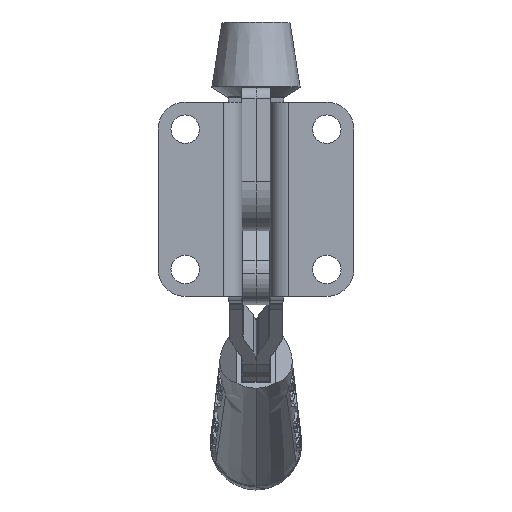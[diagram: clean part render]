
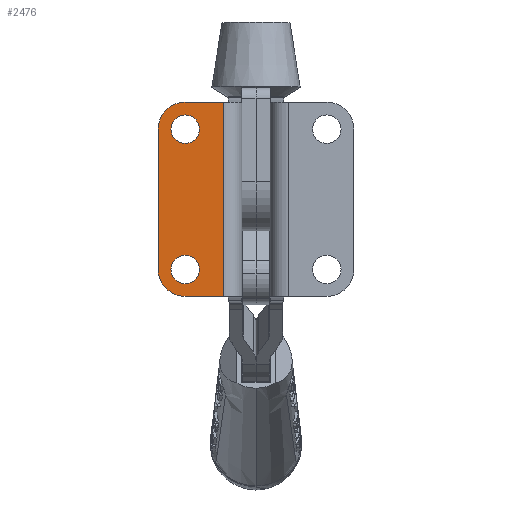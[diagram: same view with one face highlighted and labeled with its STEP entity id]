
A CAD part, front view. The second image highlights one B-rep face of the part: STEP entity #2476.
In plain terms, the highlighted planar face has unit normal (0, -1, 0).
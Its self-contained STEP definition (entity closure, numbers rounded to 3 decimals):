
#1627=CARTESIAN_POINT('',(-20.828,-33.274,20.638));
#1628=DIRECTION('',(0.,1.,0.));
#1629=DIRECTION('',(-1.,0.,0.));
#1630=AXIS2_PLACEMENT_3D('',#1627,#1628,#1629);
#1635=CARTESIAN_POINT('',(-20.828,-33.274,20.638));
#1636=DIRECTION('',(0.,1.,0.));
#1637=DIRECTION('',(1.,0.,0.));
#1638=AXIS2_PLACEMENT_3D('',#1635,#1636,#1637);
#1643=CARTESIAN_POINT('',(-20.828,-33.274,-20.638));
#1644=DIRECTION('',(0.,1.,0.));
#1645=DIRECTION('',(-1.,0.,0.));
#1646=AXIS2_PLACEMENT_3D('',#1643,#1644,#1645);
#1651=CARTESIAN_POINT('',(-20.828,-33.274,-20.638));
#1652=DIRECTION('',(0.,1.,0.));
#1653=DIRECTION('',(1.,0.,0.));
#1654=AXIS2_PLACEMENT_3D('',#1651,#1652,#1653);
#1659=DIRECTION('',(1.,0.,0.));
#1660=VECTOR('',#1659,11.214);
#1661=CARTESIAN_POINT('',(-20.866,-33.274,-28.575));
#1662=LINE('',#1661,#1660);
#1666=CARTESIAN_POINT('',(-20.866,-33.274,-20.638));
#1667=DIRECTION('',(0.,-1.,0.));
#1668=DIRECTION('',(-1.,0.,0.));
#1669=AXIS2_PLACEMENT_3D('',#1666,#1667,#1668);
#1674=DIRECTION('',(0.,0.,-1.));
#1675=VECTOR('',#1674,41.275);
#1676=CARTESIAN_POINT('',(-28.804,-33.274,20.638));
#1677=LINE('',#1676,#1675);
#1681=CARTESIAN_POINT('',(-20.866,-33.274,20.638));
#1682=DIRECTION('',(0.,-1.,0.));
#1683=DIRECTION('',(0.,0.,1.));
#1684=AXIS2_PLACEMENT_3D('',#1681,#1682,#1683);
#1689=DIRECTION('',(-1.,0.,0.));
#1690=VECTOR('',#1689,11.214);
#1691=CARTESIAN_POINT('',(-9.652,-33.274,28.575));
#1692=LINE('',#1691,#1690);
#2175=DIRECTION('',(0.,0.,-1.));
#2176=VECTOR('',#2175,57.15);
#2177=CARTESIAN_POINT('',(-9.652,-33.274,28.575));
#2178=LINE('',#2177,#2176);
#2310=CARTESIAN_POINT('',(-25.019,-33.274,20.638));
#2311=CARTESIAN_POINT('',(-16.637,-33.274,20.638));
#2312=VERTEX_POINT('',#2310);
#2313=VERTEX_POINT('',#2311);
#2314=CARTESIAN_POINT('',(-25.019,-33.274,-20.638));
#2315=CARTESIAN_POINT('',(-16.637,-33.274,-20.638));
#2316=VERTEX_POINT('',#2314);
#2317=VERTEX_POINT('',#2315);
#2354=CARTESIAN_POINT('',(-9.652,-33.274,28.575));
#2355=CARTESIAN_POINT('',(-9.652,-33.274,-28.575));
#2356=VERTEX_POINT('',#2354);
#2357=VERTEX_POINT('',#2355);
#2366=CARTESIAN_POINT('',(-20.866,-33.274,28.575));
#2367=VERTEX_POINT('',#2366);
#2368=CARTESIAN_POINT('',(-20.866,-33.274,-28.575));
#2369=VERTEX_POINT('',#2368);
#2382=CARTESIAN_POINT('',(-28.804,-33.274,20.638));
#2383=VERTEX_POINT('',#2382);
#2384=CARTESIAN_POINT('',(-28.804,-33.274,-20.638));
#2385=VERTEX_POINT('',#2384);
#2446=CARTESIAN_POINT('',(-20.866,-33.274,-20.638));
#2447=DIRECTION('',(0.,1.,0.));
#2448=DIRECTION('',(1.,0.,0.));
#2449=AXIS2_PLACEMENT_3D('',#2446,#2447,#2448);
#2450=PLANE('',#2449);
#2452=ORIENTED_EDGE('',*,*,#2451,.T.);
#2454=ORIENTED_EDGE('',*,*,#2453,.F.);
#2456=ORIENTED_EDGE('',*,*,#2455,.F.);
#2458=ORIENTED_EDGE('',*,*,#2457,.F.);
#2460=ORIENTED_EDGE('',*,*,#2459,.F.);
#2462=ORIENTED_EDGE('',*,*,#2461,.F.);
#2463=EDGE_LOOP('',(#2452,#2454,#2456,#2458,#2460,#2462));
#2464=FACE_OUTER_BOUND('',#2463,.F.);
#2466=ORIENTED_EDGE('',*,*,#2465,.F.);
#2468=ORIENTED_EDGE('',*,*,#2467,.F.);
#2469=EDGE_LOOP('',(#2466,#2468));
#2470=FACE_BOUND('',#2469,.F.);
#2471=ORIENTED_EDGE('',*,*,#2435,.F.);
#2473=ORIENTED_EDGE('',*,*,#2472,.F.);
#2474=EDGE_LOOP('',(#2471,#2473));
#2475=FACE_BOUND('',#2474,.F.);
#1631=CIRCLE('',#1630,4.191);
#1639=CIRCLE('',#1638,4.191);
#1647=CIRCLE('',#1646,4.191);
#1655=CIRCLE('',#1654,4.191);
#1670=CIRCLE('',#1669,7.938);
#1685=CIRCLE('',#1684,7.938);
#2435=EDGE_CURVE('',#2312,#2313,#1631,.T.);
#2451=EDGE_CURVE('',#2356,#2357,#2178,.T.);
#2453=EDGE_CURVE('',#2369,#2357,#1662,.T.);
#2455=EDGE_CURVE('',#2385,#2369,#1670,.T.);
#2457=EDGE_CURVE('',#2383,#2385,#1677,.T.);
#2459=EDGE_CURVE('',#2367,#2383,#1685,.T.);
#2461=EDGE_CURVE('',#2356,#2367,#1692,.T.);
#2465=EDGE_CURVE('',#2316,#2317,#1647,.T.);
#2467=EDGE_CURVE('',#2317,#2316,#1655,.T.);
#2472=EDGE_CURVE('',#2313,#2312,#1639,.T.);
#2476=ADVANCED_FACE('',(#2464,#2470,#2475),#2450,.F.);
